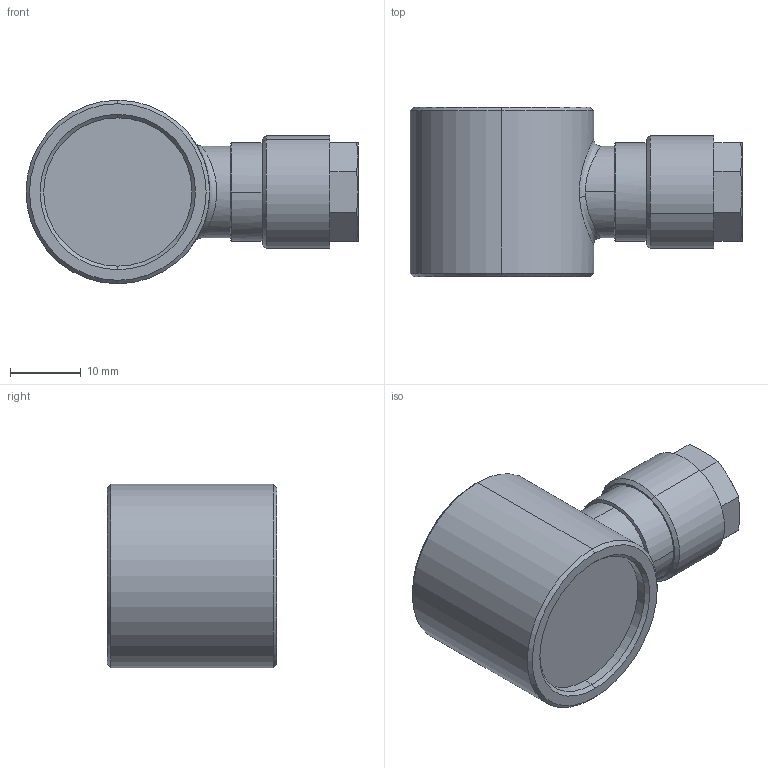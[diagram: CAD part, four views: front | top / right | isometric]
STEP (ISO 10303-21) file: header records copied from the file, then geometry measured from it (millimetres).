
FILE_DESCRIPTION (( 'STEP AP214' ), '1' );
FILE_NAME ('0150000018.step', '2012-09-28T13:27:09', ( '' ), ( '' ), 'SwSTEP 2.0', 'SolidWorks 2012', '' );
FILE_SCHEMA (( 'AUTOMOTIVE_DESIGN' ));
Length unit declared in the file: millimetre
Products named in the file (1): 0150000018
Bounding box: 47 x 24 x 26 mm (x, y, z)
Volume: 14669.6 mm3; surface area: 4421.3 mm2
Topology: 1 solids, 1 shells, 57 faces, 124 edges, 75 vertices
Faces by surface type: cone 23, plane 16, cylinder 14, bspline 2, torus 2
Entity records: 2669 total; most frequent: CARTESIAN_POINT 766, DIRECTION 271, ORIENTED_EDGE 248, EDGE_CURVE 124, AXIS2_PLACEMENT_3D 113, VERTEX_POINT 75, EDGE_LOOP 63, UNCERTAINTY_MEASURE_WITH_UNIT 60
